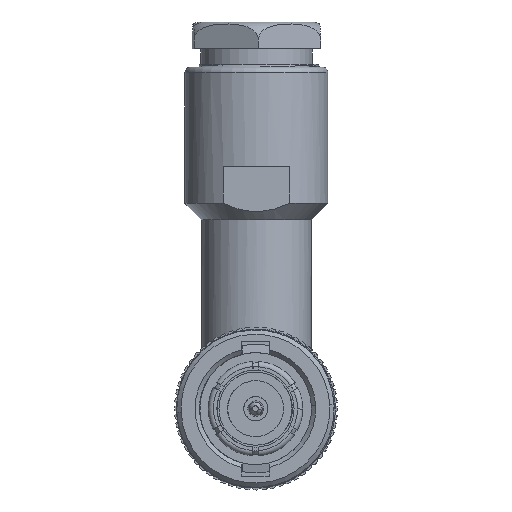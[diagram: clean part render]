
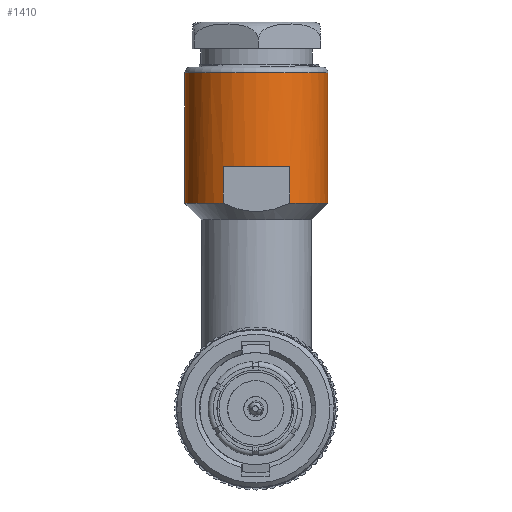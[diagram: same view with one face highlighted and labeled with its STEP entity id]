
A CAD part, front view. The second image highlights one B-rep face of the part: STEP entity #1410.
In plain terms, the highlighted cylindrical face has radius 6.287 mm (diameter 12.573 mm), a partial arc.
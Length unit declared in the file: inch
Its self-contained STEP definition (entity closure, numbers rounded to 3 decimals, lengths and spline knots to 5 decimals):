
#638 = CARTESIAN_POINT ( 'NONE',  ( 0.11531, -0.219, 0. ) ) ;
#722 = VERTEX_POINT ( 'NONE', #4736 ) ;
#846 = CARTESIAN_POINT ( 'NONE',  ( 0.2475, 0., 0. ) ) ;
#994 = CIRCLE ( 'NONE', #8944, 0.2475 ) ;
#1067 = CIRCLE ( 'NONE', #18074, 0.2475 ) ;
#1137 = ORIENTED_EDGE ( 'NONE', *, *, #6032, .T. ) ;
#1410 = ADVANCED_FACE ( 'NONE', ( #8247 ), #3752, .T. ) ;
#1415 = EDGE_CURVE ( 'NONE', #14207, #1750, #994, .T. ) ;
#1559 = ORIENTED_EDGE ( 'NONE', *, *, #4538, .T. ) ;
#1623 = VECTOR ( 'NONE', #17670, 39.37008 ) ;
#1750 = VERTEX_POINT ( 'NONE', #10626 ) ;
#2214 = DIRECTION ( 'NONE',  ( 1., 0., 0. ) ) ;
#2372 = DIRECTION ( 'NONE',  ( 0., 0., 1. ) ) ;
#2401 = ORIENTED_EDGE ( 'NONE', *, *, #4362, .F. ) ;
#2466 = CIRCLE ( 'NONE', #3906, 0.2475 ) ;
#2469 = DIRECTION ( 'NONE',  ( 1., 0., 0. ) ) ;
#3752 = CYLINDRICAL_SURFACE ( 'NONE', #13633, 0.2475 ) ;
#3906 = AXIS2_PLACEMENT_3D ( 'NONE', #16783, #12638, #4085 ) ;
#4085 = DIRECTION ( 'NONE',  ( 1., 0., 0. ) ) ;
#4270 = VECTOR ( 'NONE', #10662, 39.37008 ) ;
#4362 = EDGE_CURVE ( 'NONE', #12799, #14207, #6205, .T. ) ;
#4538 = EDGE_CURVE ( 'NONE', #722, #4643, #2466, .T. ) ;
#4643 = VERTEX_POINT ( 'NONE', #16062 ) ;
#4736 = CARTESIAN_POINT ( 'NONE',  ( -0.11531, -0.219, -0.343 ) ) ;
#5559 = EDGE_CURVE ( 'NONE', #9740, #722, #5675, .T. ) ;
#5675 = LINE ( 'NONE', #16918, #10131 ) ;
#5702 = CIRCLE ( 'NONE', #5994, 0.2475 ) ;
#5941 = ORIENTED_EDGE ( 'NONE', *, *, #5559, .T. ) ;
#5994 = AXIS2_PLACEMENT_3D ( 'NONE', #16811, #9826, #14325 ) ;
#6032 = EDGE_CURVE ( 'NONE', #12210, #1750, #11985, .T. ) ;
#6205 = LINE ( 'NONE', #11656, #9515 ) ;
#6236 = ORIENTED_EDGE ( 'NONE', *, *, #14344, .T. ) ;
#6377 = ORIENTED_EDGE ( 'NONE', *, *, #1415, .F. ) ;
#6449 = EDGE_CURVE ( 'NONE', #4643, #14771, #10578, .T. ) ;
#8078 = CARTESIAN_POINT ( 'NONE',  ( 0., 0., -0.02 ) ) ;
#8247 = FACE_OUTER_BOUND ( 'NONE', #11861, .T. ) ;
#8944 = AXIS2_PLACEMENT_3D ( 'NONE', #8078, #2372, #13776 ) ;
#9515 = VECTOR ( 'NONE', #14705, 39.37008 ) ;
#9740 = VERTEX_POINT ( 'NONE', #16561 ) ;
#9826 = DIRECTION ( 'NONE',  ( 0., 0., 1. ) ) ;
#9914 = DIRECTION ( 'NONE',  ( 0., 0., 1. ) ) ;
#10131 = VECTOR ( 'NONE', #9914, 39.37008 ) ;
#10389 = DIRECTION ( 'NONE',  ( 0., 0., 1. ) ) ;
#10578 = LINE ( 'NONE', #638, #4270 ) ;
#10626 = CARTESIAN_POINT ( 'NONE',  ( 0.2475, 0., -0.02 ) ) ;
#10662 = DIRECTION ( 'NONE',  ( 0., 0., -1. ) ) ;
#10901 = CARTESIAN_POINT ( 'NONE',  ( 0.11531, -0.219, -0.471 ) ) ;
#11101 = CARTESIAN_POINT ( 'NONE',  ( 0., 0., 0. ) ) ;
#11486 = CARTESIAN_POINT ( 'NONE',  ( -0.2475, 0., -0.471 ) ) ;
#11656 = CARTESIAN_POINT ( 'NONE',  ( -0.2475, 0., 0. ) ) ;
#11766 = ORIENTED_EDGE ( 'NONE', *, *, #15769, .T. ) ;
#11861 = EDGE_LOOP ( 'NONE', ( #2401, #6236, #5941, #1559, #12875, #11766, #1137, #6377 ) ) ;
#11985 = LINE ( 'NONE', #846, #1623 ) ;
#12210 = VERTEX_POINT ( 'NONE', #15753 ) ;
#12307 = DIRECTION ( 'NONE',  ( 0., 0., 1. ) ) ;
#12638 = DIRECTION ( 'NONE',  ( 0., 0., 1. ) ) ;
#12799 = VERTEX_POINT ( 'NONE', #11486 ) ;
#12875 = ORIENTED_EDGE ( 'NONE', *, *, #6449, .T. ) ;
#13633 = AXIS2_PLACEMENT_3D ( 'NONE', #11101, #12307, #2469 ) ;
#13776 = DIRECTION ( 'NONE',  ( 1., 0., 0. ) ) ;
#14207 = VERTEX_POINT ( 'NONE', #14343 ) ;
#14325 = DIRECTION ( 'NONE',  ( 1., 0., 0. ) ) ;
#14343 = CARTESIAN_POINT ( 'NONE',  ( -0.2475, 0., -0.02 ) ) ;
#14344 = EDGE_CURVE ( 'NONE', #12799, #9740, #1067, .T. ) ;
#14705 = DIRECTION ( 'NONE',  ( 0., 0., 1. ) ) ;
#14771 = VERTEX_POINT ( 'NONE', #10901 ) ;
#15753 = CARTESIAN_POINT ( 'NONE',  ( 0.2475, 0., -0.471 ) ) ;
#15769 = EDGE_CURVE ( 'NONE', #14771, #12210, #5702, .T. ) ;
#16062 = CARTESIAN_POINT ( 'NONE',  ( 0.11531, -0.219, -0.343 ) ) ;
#16561 = CARTESIAN_POINT ( 'NONE',  ( -0.11531, -0.219, -0.471 ) ) ;
#16783 = CARTESIAN_POINT ( 'NONE',  ( 0., 0., -0.343 ) ) ;
#16811 = CARTESIAN_POINT ( 'NONE',  ( 0., 0., -0.471 ) ) ;
#16918 = CARTESIAN_POINT ( 'NONE',  ( -0.11531, -0.219, 0. ) ) ;
#17562 = CARTESIAN_POINT ( 'NONE',  ( 0., 0., -0.471 ) ) ;
#17670 = DIRECTION ( 'NONE',  ( 0., 0., 1. ) ) ;
#18074 = AXIS2_PLACEMENT_3D ( 'NONE', #17562, #10389, #2214 ) ;
